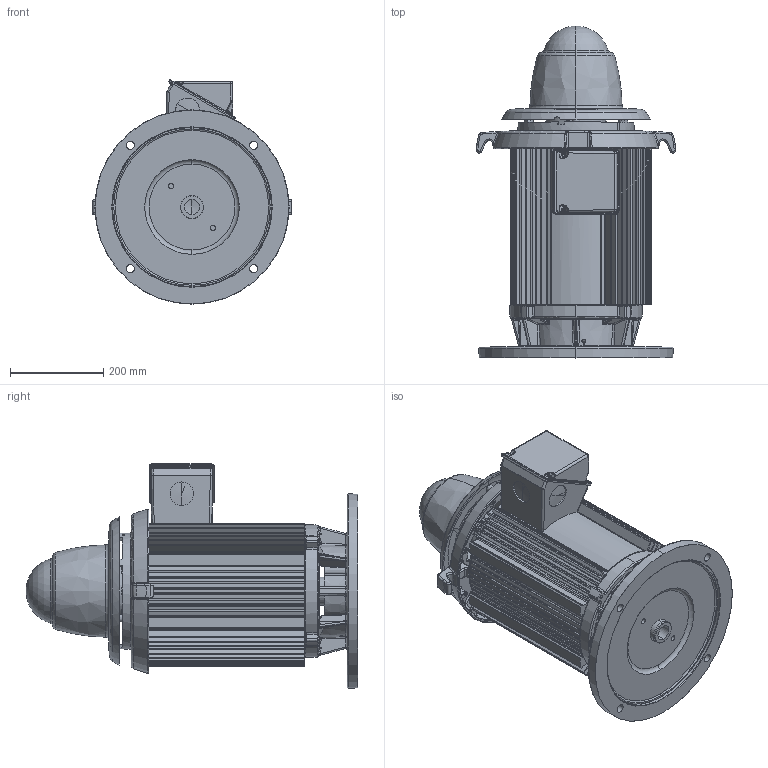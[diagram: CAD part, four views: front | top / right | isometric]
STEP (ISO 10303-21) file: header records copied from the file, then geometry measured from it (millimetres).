
FILE_DESCRIPTION((''),'2;1');
FILE_NAME('280AU_ASSY_ASM','2016-03-31T',('emd2341'),('Nidec Motor Corporation'),'PRO/ENGINEER BY PARAMETRIC TECHNOLOGY CORPORATION, 2013150','PRO/ENGINEER BY PARAMETRIC TECHNOLOGY CORPORATION, 2013150','');
FILE_SCHEMA(('CONFIG_CONTROL_DESIGN'));
Length unit declared in the file: inch
Products named in the file (9): 0380258_AF0; 1001461; 0396184; 0116910; SHAFT; 0396188-CAP; 0364282-OBB; 0364292; 280AU_ASSY_ASM
Assembly tree (8 placements, depth 2):
  280AU_ASSY_ASM
    0380258_AF0
    1001461
    0396184
    0116910
    SHAFT
    0396188-CAP
    0364282-OBB
    0364292
Bounding box: 428.26 x 712.67 x 481.8 mm (x, y, z)
Volume: 8734154.4 mm3; surface area: 2768583 mm2
Topology: 10 solids, 10 shells, 3290 faces, 7964 edges, 4649 vertices
Faces by surface type: bspline 1135, cylinder 799, plane 619, torus 350, cone 283, sphere 102, extrusion 2
Entity records: 149214 total; most frequent: CARTESIAN_POINT 81478, ORIENTED_EDGE 15814, DIRECTION 11996, EDGE_CURVE 7907, AXIS2_PLACEMENT_3D 5033, VERTEX_POINT 4649, EDGE_LOOP 3418, FACE_OUTER_BOUND 3290
